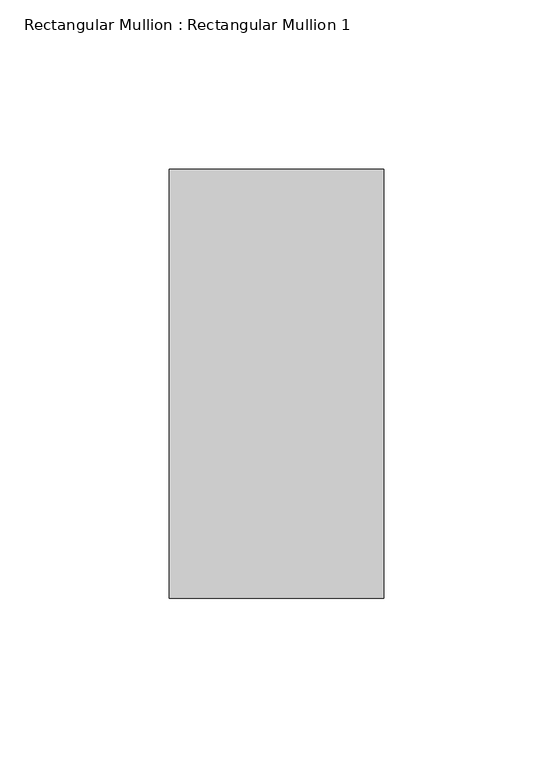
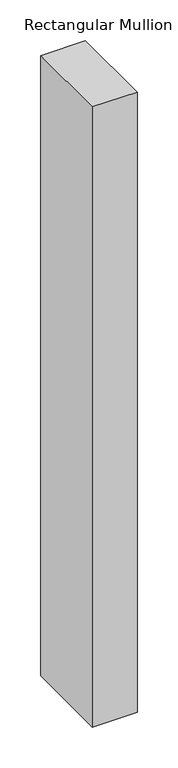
"""IFC4 building model written with IfcOpenShell, lengths in millimetres: member geometry, Rectangular Mullion : Rectangular Mullion 1."""

from ifc_helpers import new_model, si_unit, frame, origin, place, context, project, spatial, polyline, outline, extrude, source, transform, mapped, element, save


def rectangular_mullion_rectangular_mullion_1_e67218e6(model_context):
    return source(origin(), model_context, "Body", "SweptSolid", [
        extrude(outline(polyline([(0.0, 63.5), (0.0, -63.5), (-63.5, -63.5), (-63.5, 63.5), (0.0, 63.5)])), frame((0.0, 0.0, -930.4001448), z_axis=(0.0, 0.0, 1.0), x_axis=(1.0, 0.0, 0.0)), (0.0, 0.0, 1.0), 930.4001448),
    ])


if __name__ == "__main__":
    model = new_model("IFC4")
    model_context = context("Model", 3, world=origin())
    ifc_project = project(units=[si_unit("LENGTHUNIT", "METRE", prefix="MILLI")], contexts=[model_context])
    site = spatial("IfcSite", under=ifc_project)
    building = spatial("IfcBuilding", under=site)
    placement = place(None, origin())
    rectangular_mullion_rectangular_mullion_1_shape = rectangular_mullion_rectangular_mullion_1_e67218e6(model_context)
    element("IfcMember", 1, ObjectType="Rectangular Mullion : Rectangular Mullion 1", at=placement, inside=building, context=model_context, shape_type="MappedRepresentation", body=[
        mapped(rectangular_mullion_rectangular_mullion_1_shape, transform((0.0, 0.0, 0.0), x_axis=(1.0, 0.0, 0.0), y_axis=(0.0, 1.0, 0.0), z_axis=(0.0, 0.0, 1.0))),
    ])
    save(model, "model.ifc")
